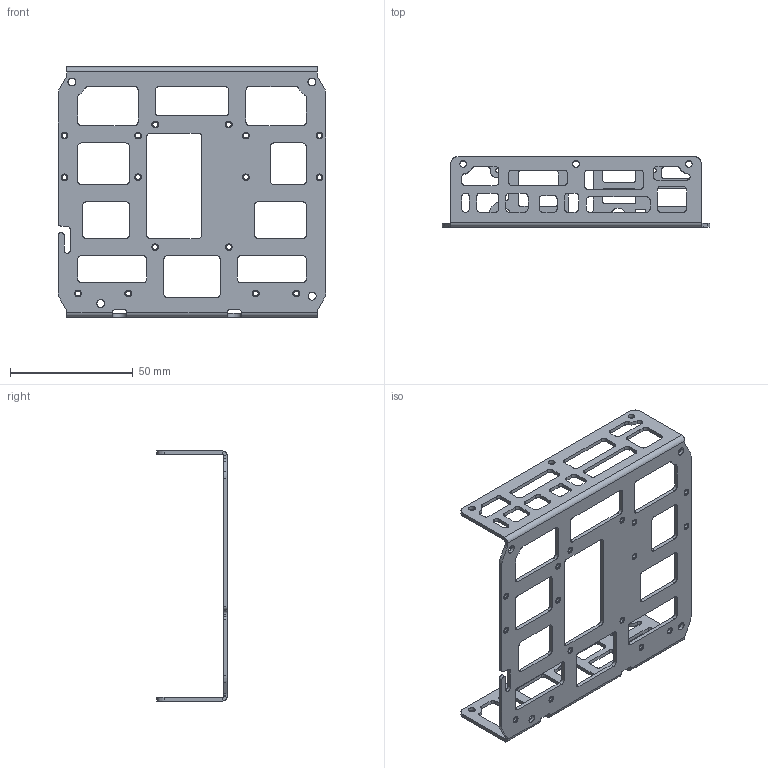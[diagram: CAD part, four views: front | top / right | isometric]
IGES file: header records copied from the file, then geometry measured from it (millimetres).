
Global section: file name: C:\Users\Knabe\Documents\Classes\8 Semester 8\DARwIn\Deliverables\DARwIn OP\DARwIn OP Part Files\OP 3D CAD Files\3D IGS\5_PR13_B01_FRM_PCB_MAIN_B.igs; native system: NX V7.0; preprocessor: SIEMENS PLM Software NX 7.0; date: 20110525.180155; units: millimetre
Bounding box: 109.2 x 28.7 x 102 mm (x, y, z)
Surface area: 23360.3 mm2 (no closed solid volume)
Topology: 0 solids, 0 shells, 431 faces, 3096 edges, 3096 vertices
Faces by surface type: bspline 431
